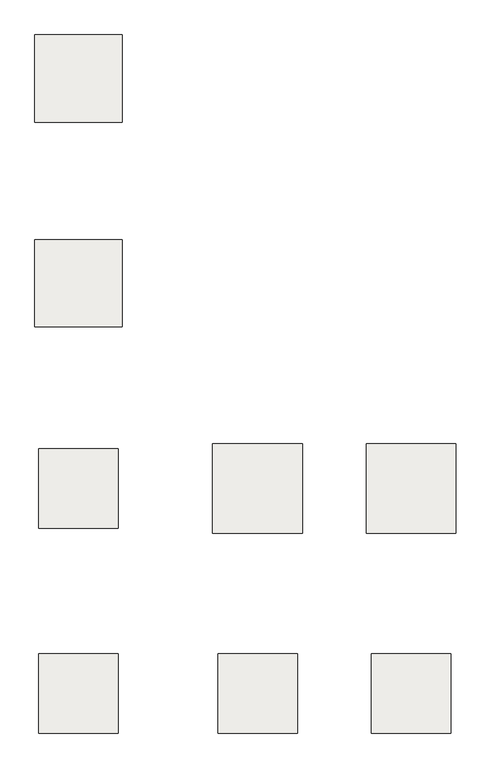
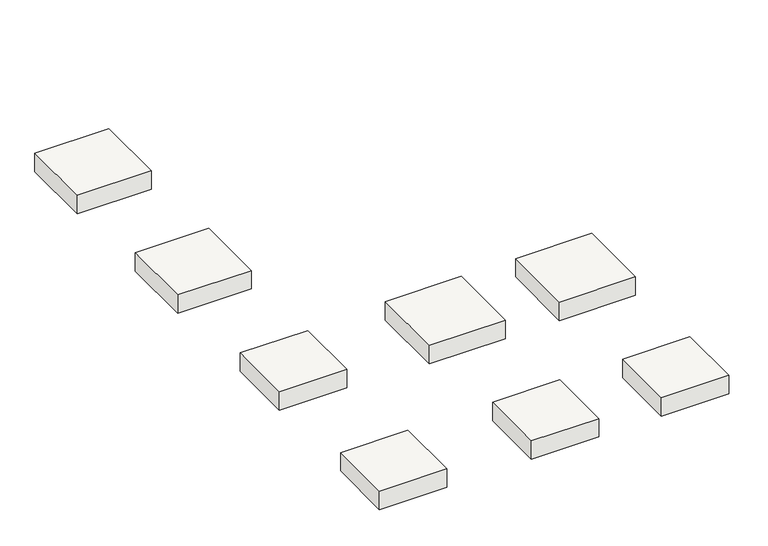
"""IFC4 building model written with IfcOpenShell, lengths in millimetres: slab geometry, ラップルコンクリート_基礎下端-1600 : ラップルコンクリート."""

from ifc_helpers import new_model, si_unit, frame, origin, place, context, project, spatial, polyline, outline, extrude, source, transform, mapped, element, save


def slab_0bee21c8(model_context):
    return source(origin(), model_context, "Body", "SweptSolid", [
        extrude(outline(polyline([(-1550.0, 1550.0), (1550.0, 1550.0), (1550.0, -1550.0), (-1550.0, -1550.0), (-1550.0, 1550.0)])), frame((0.0, 0.0, -2500.0), z_axis=(0.0, 0.0, 1.0), x_axis=(1.0, 0.0, 0.0)), (0.0, 0.0, 1.0), 900.0),
        extrude(outline(polyline([(8550.0, -1550.0), (5450.0, -1550.0), (5450.0, 1550.0), (8550.0, 1550.0), (8550.0, -1550.0)])), frame((0.0, 0.0, -2500.0), z_axis=(0.0, 0.0, 1.0), x_axis=(1.0, 0.0, 0.0)), (0.0, 0.0, 1.0), 900.0),
        extrude(outline(polyline([(14550.0, -1550.0), (11450.0, -1550.0), (11450.0, 1550.0), (14550.0, 1550.0), (14550.0, -1550.0)])), frame((0.0, 0.0, -2500.0), z_axis=(0.0, 0.0, 1.0), x_axis=(1.0, 0.0, 0.0)), (0.0, 0.0, 1.0), 900.0),
        extrude(outline(polyline([(-1700.0, 17700.0), (1700.0, 17700.0), (1700.0, 14300.0), (-1700.0, 14300.0), (-1700.0, 17700.0)])), frame((0.0, 0.0, -2500.0), z_axis=(0.0, 0.0, 1.0), x_axis=(1.0, 0.0, 0.0)), (0.0, 0.0, 1.0), 900.0),
        extrude(outline(polyline([(-1700.0, 25700.0), (1700.0, 25700.0), (1700.0, 22300.0), (-1700.0, 22300.0), (-1700.0, 25700.0)])), frame((0.0, 0.0, -2500.0), z_axis=(0.0, 0.0, 1.0), x_axis=(1.0, 0.0, 0.0)), (0.0, 0.0, 1.0), 900.0),
        extrude(outline(polyline([(5250.0, 9750.0), (8750.0, 9750.0), (8750.0, 6250.0), (5250.0, 6250.0), (5250.0, 9750.0)])), frame((0.0, 0.0, -2500.0), z_axis=(0.0, 0.0, 1.0), x_axis=(1.0, 0.0, 0.0)), (0.0, 0.0, 1.0), 900.0),
        extrude(outline(polyline([(11250.0, 9750.0), (14750.0, 9750.0), (14750.0, 6250.0), (11250.0, 6250.0), (11250.0, 9750.0)])), frame((0.0, 0.0, -2500.0), z_axis=(0.0, 0.0, 1.0), x_axis=(1.0, 0.0, 0.0)), (0.0, 0.0, 1.0), 900.0),
        extrude(outline(polyline([(-1550.0, 9550.0), (1550.0, 9550.0), (1550.0, 6450.0), (-1550.0, 6450.0), (-1550.0, 9550.0)])), frame((0.0, 0.0, -2500.0), z_axis=(0.0, 0.0, 1.0), x_axis=(1.0, 0.0, 0.0)), (0.0, 0.0, 1.0), 900.0),
    ])


if __name__ == "__main__":
    model = new_model("IFC4")
    model_context = context("Model", 3, world=origin())
    ifc_project = project(units=[si_unit("LENGTHUNIT", "METRE", prefix="MILLI")], contexts=[model_context])
    site = spatial("IfcSite", under=ifc_project)
    building = spatial("IfcBuilding", under=site)
    placement = place(None, origin())
    slab_shape = slab_0bee21c8(model_context)
    element("IfcSlab", 1, ObjectType="ラップルコンクリート_基礎下端-1600 : ラップルコンクリート", at=placement, inside=building, context=model_context, shape_type="MappedRepresentation", body=[
        mapped(slab_shape, transform((0.0, 0.0, 0.0), x_axis=(1.0, 0.0, 0.0), y_axis=(0.0, 1.0, 0.0), z_axis=(0.0, 0.0, 1.0))),
    ])
    save(model, "model.ifc")
